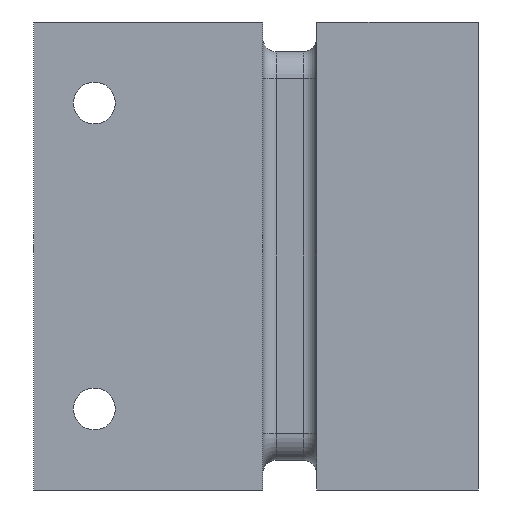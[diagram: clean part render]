
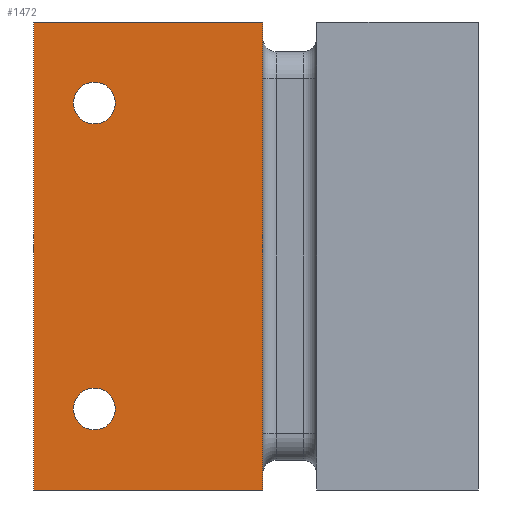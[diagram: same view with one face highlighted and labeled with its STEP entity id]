
A CAD part, front view. The second image highlights one B-rep face of the part: STEP entity #1472.
In plain terms, the highlighted planar face has unit normal (0, -1, 0).
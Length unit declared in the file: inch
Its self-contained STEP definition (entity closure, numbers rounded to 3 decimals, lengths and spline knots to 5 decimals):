
#1 = LINE ( 'NONE', #1469, #1155 ) ;
#3 = DIRECTION ( 'NONE',  ( 0., 0., 1. ) ) ;
#6 = CARTESIAN_POINT ( 'NONE',  ( -1.31053, 0., -1.08268 ) ) ;
#14 = EDGE_CURVE ( 'NONE', #897, #1854, #88, .T. ) ;
#36 = VECTOR ( 'NONE', #203, 39.37008 ) ;
#39 = ORIENTED_EDGE ( 'NONE', *, *, #933, .T. ) ;
#50 = FACE_BOUND ( 'NONE', #1676, .T. ) ;
#88 = LINE ( 'NONE', #666, #36 ) ;
#98 = DIRECTION ( 'NONE',  ( 0., 0., -1. ) ) ;
#137 = VECTOR ( 'NONE', #158, 39.37008 ) ;
#158 = DIRECTION ( 'NONE',  ( 1., 0., 0. ) ) ;
#203 = DIRECTION ( 'NONE',  ( 0., 0., 1. ) ) ;
#223 = CARTESIAN_POINT ( 'NONE',  ( -0.25, 0., 1.08268 ) ) ;
#226 = VERTEX_POINT ( 'NONE', #315 ) ;
#260 = EDGE_CURVE ( 'NONE', #1712, #1573, #1060, .T. ) ;
#281 = DIRECTION ( 'NONE',  ( 0., 1., 0. ) ) ;
#315 = CARTESIAN_POINT ( 'NONE',  ( -1.02928, 0., 0.80443 ) ) ;
#338 = AXIS2_PLACEMENT_3D ( 'NONE', #1301, #683, #996 ) ;
#368 = CARTESIAN_POINT ( 'NONE',  ( -0.74803, 0., -1.08268 ) ) ;
#420 = EDGE_CURVE ( 'NONE', #569, #226, #1467, .T. ) ;
#434 = FACE_BOUND ( 'NONE', #1650, .T. ) ;
#506 = EDGE_CURVE ( 'NONE', #1573, #1712, #970, .T. ) ;
#530 = VERTEX_POINT ( 'NONE', #223 ) ;
#540 = CARTESIAN_POINT ( 'NONE',  ( -1.02928, 0., 0.61093 ) ) ;
#569 = VERTEX_POINT ( 'NONE', #540 ) ;
#591 = CARTESIAN_POINT ( 'NONE',  ( -1.02928, 0., -0.70768 ) ) ;
#627 = CARTESIAN_POINT ( 'NONE',  ( -1.02928, 0., -0.80443 ) ) ;
#666 = CARTESIAN_POINT ( 'NONE',  ( -1.31053, 0., 1.08268 ) ) ;
#683 = DIRECTION ( 'NONE',  ( 0., -1., 0. ) ) ;
#709 = DIRECTION ( 'NONE',  ( -1., 0., 0. ) ) ;
#749 = ORIENTED_EDGE ( 'NONE', *, *, #1462, .F. ) ;
#768 = CARTESIAN_POINT ( 'NONE',  ( -0.74803, 0., 1.08268 ) ) ;
#775 = DIRECTION ( 'NONE',  ( 0., 1., 0. ) ) ;
#795 = CIRCLE ( 'NONE', #1678, 0.09675 ) ;
#802 = AXIS2_PLACEMENT_3D ( 'NONE', #1649, #281, #1778 ) ;
#816 = EDGE_LOOP ( 'NONE', ( #749, #866, #888, #1930 ) ) ;
#852 = DIRECTION ( 'NONE',  ( 0., 0., 1. ) ) ;
#866 = ORIENTED_EDGE ( 'NONE', *, *, #892, .F. ) ;
#882 = LINE ( 'NONE', #768, #137 ) ;
#888 = ORIENTED_EDGE ( 'NONE', *, *, #14, .F. ) ;
#892 = EDGE_CURVE ( 'NONE', #1854, #530, #882, .T. ) ;
#897 = VERTEX_POINT ( 'NONE', #6 ) ;
#900 = FACE_OUTER_BOUND ( 'NONE', #816, .T. ) ;
#923 = DIRECTION ( 'NONE',  ( 0., 0., 1. ) ) ;
#933 = EDGE_CURVE ( 'NONE', #226, #569, #795, .T. ) ;
#970 = CIRCLE ( 'NONE', #1721, 0.09675 ) ;
#994 = DIRECTION ( 'NONE',  ( 0., 1., 0. ) ) ;
#996 = DIRECTION ( 'NONE',  ( 0., 0., -1. ) ) ;
#1001 = ORIENTED_EDGE ( 'NONE', *, *, #260, .T. ) ;
#1060 = CIRCLE ( 'NONE', #1738, 0.09675 ) ;
#1130 = LINE ( 'NONE', #368, #1847 ) ;
#1155 = VECTOR ( 'NONE', #98, 39.37008 ) ;
#1157 = ORIENTED_EDGE ( 'NONE', *, *, #506, .T. ) ;
#1301 = CARTESIAN_POINT ( 'NONE',  ( 0., 0., 0. ) ) ;
#1369 = DIRECTION ( 'NONE',  ( 0., 1., 0. ) ) ;
#1462 = EDGE_CURVE ( 'NONE', #530, #1758, #1, .T. ) ;
#1467 = CIRCLE ( 'NONE', #802, 0.09675 ) ;
#1469 = CARTESIAN_POINT ( 'NONE',  ( -0.25, 0., 0. ) ) ;
#1472 = ADVANCED_FACE ( 'NONE', ( #50, #434, #900 ), #1920, .T. ) ;
#1488 = CARTESIAN_POINT ( 'NONE',  ( -1.02928, 0., -0.61093 ) ) ;
#1573 = VERTEX_POINT ( 'NONE', #1488 ) ;
#1592 = CARTESIAN_POINT ( 'NONE',  ( -1.31053, 0., 1.08268 ) ) ;
#1649 = CARTESIAN_POINT ( 'NONE',  ( -1.02928, 0., 0.70768 ) ) ;
#1650 = EDGE_LOOP ( 'NONE', ( #39, #1836 ) ) ;
#1676 = EDGE_LOOP ( 'NONE', ( #1157, #1001 ) ) ;
#1678 = AXIS2_PLACEMENT_3D ( 'NONE', #1686, #775, #923 ) ;
#1686 = CARTESIAN_POINT ( 'NONE',  ( -1.02928, 0., 0.70768 ) ) ;
#1712 = VERTEX_POINT ( 'NONE', #627 ) ;
#1721 = AXIS2_PLACEMENT_3D ( 'NONE', #1763, #994, #852 ) ;
#1738 = AXIS2_PLACEMENT_3D ( 'NONE', #591, #1369, #3 ) ;
#1758 = VERTEX_POINT ( 'NONE', #1765 ) ;
#1763 = CARTESIAN_POINT ( 'NONE',  ( -1.02928, 0., -0.70768 ) ) ;
#1765 = CARTESIAN_POINT ( 'NONE',  ( -0.25, 0., -1.08268 ) ) ;
#1778 = DIRECTION ( 'NONE',  ( 0., 0., 1. ) ) ;
#1816 = EDGE_CURVE ( 'NONE', #1758, #897, #1130, .T. ) ;
#1836 = ORIENTED_EDGE ( 'NONE', *, *, #420, .T. ) ;
#1847 = VECTOR ( 'NONE', #709, 39.37008 ) ;
#1854 = VERTEX_POINT ( 'NONE', #1592 ) ;
#1920 = PLANE ( 'NONE',  #338 ) ;
#1930 = ORIENTED_EDGE ( 'NONE', *, *, #1816, .F. ) ;
